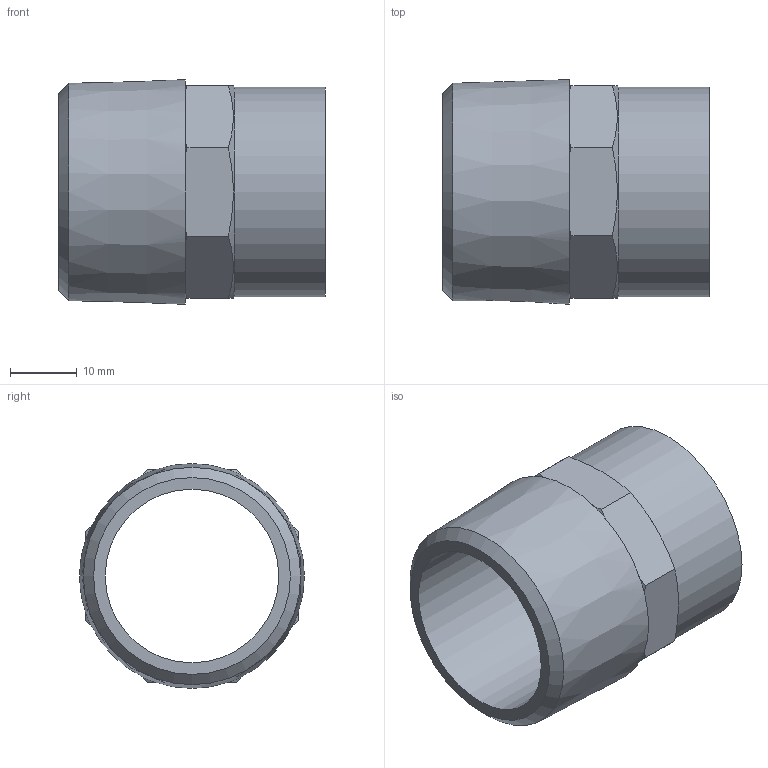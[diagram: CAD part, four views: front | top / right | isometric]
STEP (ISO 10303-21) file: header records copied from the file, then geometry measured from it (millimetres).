
FILE_DESCRIPTION((''),'2;1');
FILE_NAME('\\Lg50001\Groups\SANHA Legnica\Engineering\Public\RYSUNKI\SANHA POLSKA\4243G\step\14243_28-1(2).stp','2008-08-26T08:38:17',('pajchrowski'),(''),'Autodesk Inventor 2008','Autodesk Inventor 2008','');
FILE_SCHEMA(('AUTOMOTIVE_DESIGN { 1 0 10303 214 1 1 1 1 }'));
Length unit declared in the file: millimetre
Products named in the file (1): 14243_28-1(2)
Bounding box: 40 x 33.79 x 33.79 mm (x, y, z)
Volume: 10252.2 mm3; surface area: 8051.1 mm2
Topology: 1 solids, 1 shells, 33 faces, 72 edges, 42 vertices
Faces by surface type: plane 19, cone 11, cylinder 3
Full cylindrical faces by diameter (mm): 26.1 x1, 28 x1, 31.5 x1
Entity records: 844 total; most frequent: CARTESIAN_POINT 186, DIRECTION 132, ORIENTED_EDGE 128, EDGE_CURVE 64, AXIS2_PLACEMENT_3D 58, EDGE_LOOP 42, VERTEX_POINT 40, FACE_OUTER_BOUND 33
